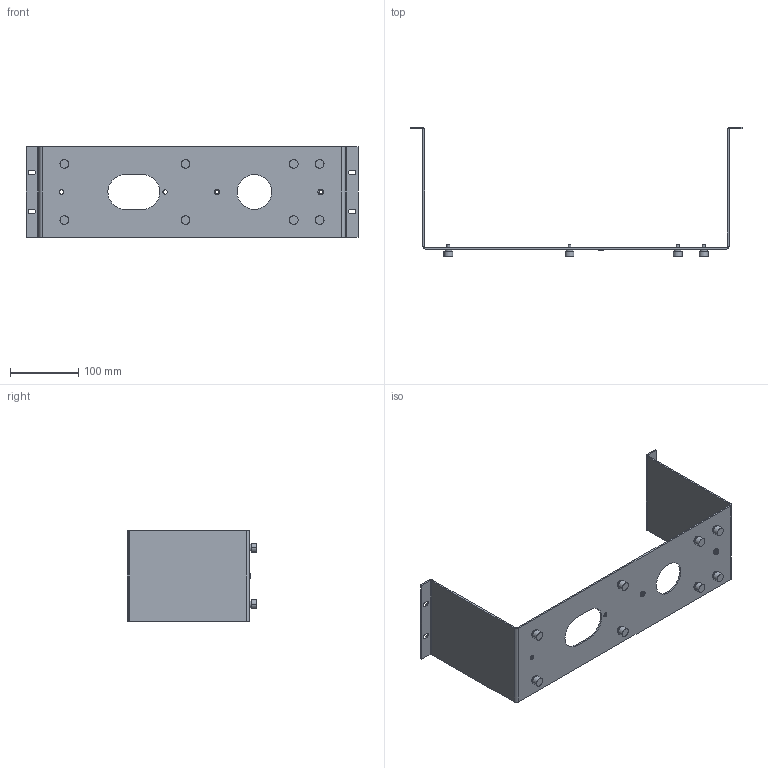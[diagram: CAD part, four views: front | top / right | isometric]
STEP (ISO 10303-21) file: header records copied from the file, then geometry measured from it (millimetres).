
FILE_DESCRIPTION((''),'2;1');
FILE_NAME('CU_CFP_RACK_MOUNT','2007-07-16T',('chrisj'),(''),'PRO/ENGINEER BY PARAMETRIC TECHNOLOGY CORPORATION, 2006300','PRO/ENGINEER BY PARAMETRIC TECHNOLOGY CORPORATION, 2006300','');
FILE_SCHEMA(('AUTOMOTIVE_DESIGN_CC2 { 1 2 10303 214 -1 1 5 2 }'));
Length unit declared in the file: inch
Products named in the file (1): CU_CFP_RACK_MOUNT
Bounding box: 487.17 x 190.5 x 132.56 mm (x, y, z)
Volume: 251047.1 mm3; surface area: 221189.2 mm2
Topology: 1 solids, 1 shells, 182 faces, 394 edges, 252 vertices
Faces by surface type: cylinder 104, plane 78
Entity records: 5101 total; most frequent: DIRECTION 966, CARTESIAN_POINT 828, ORIENTED_EDGE 788, EDGE_CURVE 394, AXIS2_PLACEMENT_3D 390, VERTEX_POINT 252, EDGE_LOOP 240, CIRCLE 208
